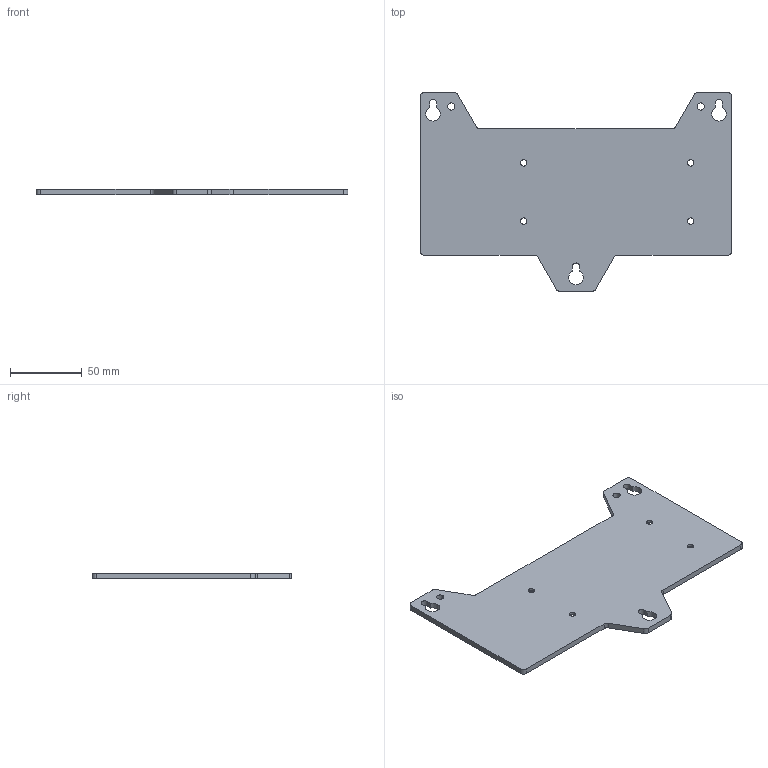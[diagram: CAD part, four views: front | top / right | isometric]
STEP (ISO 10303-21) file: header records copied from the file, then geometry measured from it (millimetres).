
FILE_DESCRIPTION((''),'2;1');
FILE_NAME('CU_PANEL_MOUNT_SMASHER_4SLOT','2016-06-07T',('jbuhisan'),(''),'CREO PARAMETRIC BY PTC INC, 2015380','CREO PARAMETRIC BY PTC INC, 2015380','');
FILE_SCHEMA(('CONFIG_CONTROL_DESIGN'));
Length unit declared in the file: inch
Products named in the file (1): CU_PANEL_MOUNT_SMASHER_4SLOT
Bounding box: 217.68 x 138.94 x 4 mm (x, y, z)
Volume: 85566.7 mm3; surface area: 46528.7 mm2
Topology: 1 solids, 1 shells, 59 faces, 163 edges, 106 vertices
Faces by surface type: cylinder 30, plane 21, cone 8
Entity records: 1977 total; most frequent: DIRECTION 349, CARTESIAN_POINT 328, ORIENTED_EDGE 326, EDGE_CURVE 163, AXIS2_PLACEMENT_3D 127, VERTEX_POINT 106, VECTOR 95, LINE 95
